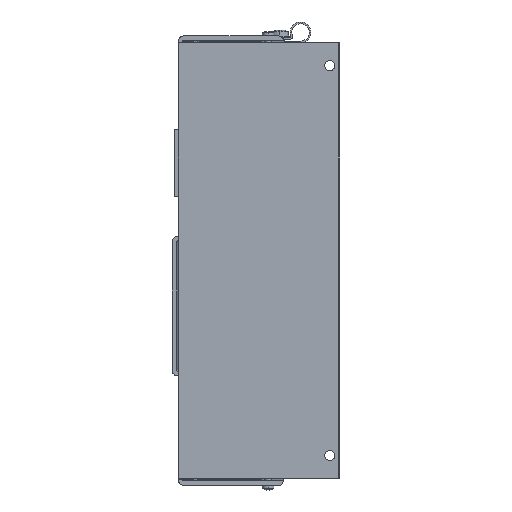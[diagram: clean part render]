
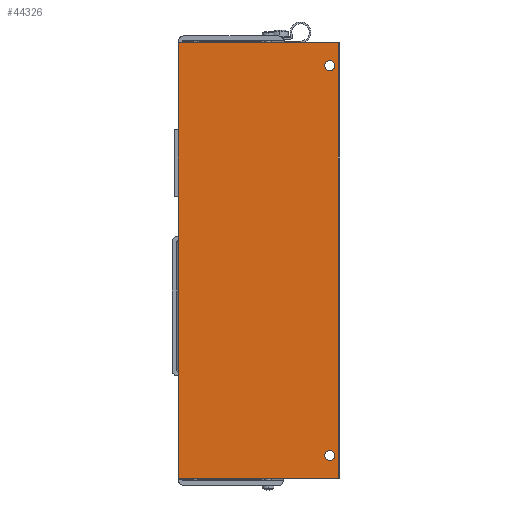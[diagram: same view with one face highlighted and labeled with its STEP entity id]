
A CAD part, left-side view. The second image highlights one B-rep face of the part: STEP entity #44326.
In plain terms, the highlighted planar face has unit normal (-1, 0, 0).
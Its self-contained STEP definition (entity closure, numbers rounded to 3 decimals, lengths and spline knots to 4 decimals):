
#7380=DIRECTION('',(0.,-1.,0.));
#7381=VECTOR('',#7380,2.857);
#7382=CARTESIAN_POINT('',(-4.71,1.3802,-7.81));
#7383=LINE('',#7382,#7381);
#18014=DIRECTION('',(0.,0.,1.));
#18015=VECTOR('',#18014,7.82);
#18016=CARTESIAN_POINT('',(-4.71,-1.4768,-7.81));
#18017=LINE('',#18016,#18015);
#18023=DIRECTION('',(0.,-1.,0.));
#18024=VECTOR('',#18023,2.857);
#18025=CARTESIAN_POINT('',(-4.71,1.3802,0.01));
#18026=LINE('',#18025,#18024);
#18027=CARTESIAN_POINT('',(-4.71,-1.3268,-0.4));
#18028=DIRECTION('',(1.,0.,0.));
#18029=DIRECTION('',(0.,1.,0.));
#18030=AXIS2_PLACEMENT_3D('',#18027,#18028,#18029);
#18032=CARTESIAN_POINT('',(-4.71,-1.3268,-0.4));
#18033=DIRECTION('',(1.,0.,0.));
#18034=DIRECTION('',(0.,-1.,0.));
#18035=AXIS2_PLACEMENT_3D('',#18032,#18033,#18034);
#18037=CARTESIAN_POINT('',(-4.71,-1.3268,-7.4));
#18038=DIRECTION('',(1.,0.,0.));
#18039=DIRECTION('',(0.,1.,0.));
#18040=AXIS2_PLACEMENT_3D('',#18037,#18038,#18039);
#18042=CARTESIAN_POINT('',(-4.71,-1.3268,-7.4));
#18043=DIRECTION('',(1.,0.,0.));
#18044=DIRECTION('',(0.,-1.,0.));
#18045=AXIS2_PLACEMENT_3D('',#18042,#18043,#18044);
#18047=DIRECTION('',(0.,0.,1.));
#18048=VECTOR('',#18047,7.82);
#18049=CARTESIAN_POINT('',(-4.71,1.3802,-7.81));
#18050=LINE('',#18049,#18048);
#21373=CARTESIAN_POINT('',(-4.71,-1.2368,-7.4));
#21374=CARTESIAN_POINT('',(-4.71,-1.4168,-7.4));
#21375=VERTEX_POINT('',#21373);
#21376=VERTEX_POINT('',#21374);
#21459=CARTESIAN_POINT('',(-4.71,-1.4768,-7.81));
#21460=VERTEX_POINT('',#21459);
#21461=CARTESIAN_POINT('',(-4.71,-1.4768,0.01));
#21462=VERTEX_POINT('',#21461);
#21471=CARTESIAN_POINT('',(-4.71,-1.2368,-0.4));
#21472=CARTESIAN_POINT('',(-4.71,-1.4168,-0.4));
#21473=VERTEX_POINT('',#21471);
#21474=VERTEX_POINT('',#21472);
#21503=CARTESIAN_POINT('',(-4.71,1.3802,-7.81));
#21504=CARTESIAN_POINT('',(-4.71,1.3802,0.01));
#21505=VERTEX_POINT('',#21503);
#21506=VERTEX_POINT('',#21504);
#44302=CARTESIAN_POINT('',(-4.71,-0.2498,0.01));
#44303=DIRECTION('',(-1.,0.,0.));
#44304=DIRECTION('',(0.,-1.,0.));
#44305=AXIS2_PLACEMENT_3D('',#44302,#44303,#44304);
#44306=PLANE('',#44305);
#44308=ORIENTED_EDGE('',*,*,#44307,.T.);
#44309=ORIENTED_EDGE('',*,*,#30704,.T.);
#44310=ORIENTED_EDGE('',*,*,#44289,.F.);
#44311=ORIENTED_EDGE('',*,*,#27547,.F.);
#44312=EDGE_LOOP('',(#44308,#44309,#44310,#44311));
#44313=FACE_OUTER_BOUND('',#44312,.F.);
#44315=ORIENTED_EDGE('',*,*,#44314,.F.);
#44317=ORIENTED_EDGE('',*,*,#44316,.F.);
#44318=EDGE_LOOP('',(#44315,#44317));
#44319=FACE_BOUND('',#44318,.F.);
#44321=ORIENTED_EDGE('',*,*,#44320,.F.);
#44323=ORIENTED_EDGE('',*,*,#44322,.F.);
#44324=EDGE_LOOP('',(#44321,#44323));
#44325=FACE_BOUND('',#44324,.F.);
#44326=ADVANCED_FACE('',(#44313,#44319,#44325),#44306,.T.);
#18031=CIRCLE('',#18030,0.09);
#18036=CIRCLE('',#18035,0.09);
#18041=CIRCLE('',#18040,0.09);
#18046=CIRCLE('',#18045,0.09);
#27547=EDGE_CURVE('',#21505,#21460,#7383,.T.);
#30704=EDGE_CURVE('',#21506,#21462,#18026,.T.);
#44289=EDGE_CURVE('',#21460,#21462,#18017,.T.);
#44307=EDGE_CURVE('',#21505,#21506,#18050,.T.);
#44314=EDGE_CURVE('',#21473,#21474,#18031,.T.);
#44316=EDGE_CURVE('',#21474,#21473,#18036,.T.);
#44320=EDGE_CURVE('',#21375,#21376,#18041,.T.);
#44322=EDGE_CURVE('',#21376,#21375,#18046,.T.);
